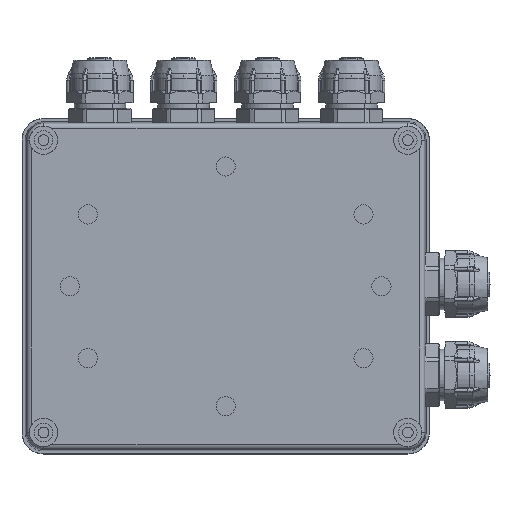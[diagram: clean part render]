
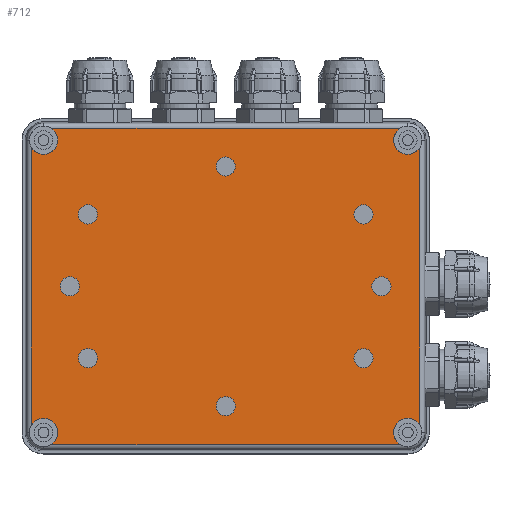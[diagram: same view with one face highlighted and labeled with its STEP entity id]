
A CAD part, front view. The second image highlights one B-rep face of the part: STEP entity #712.
In plain terms, the highlighted planar face has unit normal (0, -1, 0).
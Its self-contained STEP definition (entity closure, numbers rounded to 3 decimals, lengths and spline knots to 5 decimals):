
#712=ADVANCED_FACE('0:289',(#1749,#1750,#1751,#1752,#1753,#1754,#1755,#1756,#1757),#1758,.F.);
#1749=FACE_BOUND('',#3003,.T.);
#1750=FACE_BOUND('',#3004,.T.);
#1751=FACE_BOUND('',#3005,.T.);
#1752=FACE_BOUND('',#3006,.T.);
#1753=FACE_BOUND('',#3007,.T.);
#1754=FACE_BOUND('',#3008,.T.);
#1755=FACE_BOUND('',#3009,.T.);
#1756=FACE_BOUND('',#3010,.T.);
#1757=FACE_OUTER_BOUND('',#3011,.T.);
#1758=PLANE('',#3012);
#3003=EDGE_LOOP('',(#6775,#6776));
#3004=EDGE_LOOP('',(#6777,#6778));
#3005=EDGE_LOOP('',(#6779,#6780));
#3006=EDGE_LOOP('',(#6781,#6782));
#3007=EDGE_LOOP('',(#6783,#6784));
#3008=EDGE_LOOP('',(#6785,#6786));
#3009=EDGE_LOOP('',(#6787,#6788));
#3010=EDGE_LOOP('',(#6789,#6790));
#3011=EDGE_LOOP('',(#6791,#6792,#6793,#6794,#6795,#6796,#6797,#6798,#6799,#6800,#6801,#6802));
#3012=AXIS2_PLACEMENT_3D('',#6803,#6804,#6805);
#6775=ORIENTED_EDGE('',*,*,#9144,.T.);
#6776=ORIENTED_EDGE('',*,*,#8699,.T.);
#6777=ORIENTED_EDGE('',*,*,#9143,.T.);
#6778=ORIENTED_EDGE('',*,*,#8703,.T.);
#6779=ORIENTED_EDGE('',*,*,#9142,.T.);
#6780=ORIENTED_EDGE('',*,*,#8707,.T.);
#6781=ORIENTED_EDGE('',*,*,#9141,.T.);
#6782=ORIENTED_EDGE('',*,*,#8711,.T.);
#6783=ORIENTED_EDGE('',*,*,#9140,.T.);
#6784=ORIENTED_EDGE('',*,*,#8715,.T.);
#6785=ORIENTED_EDGE('',*,*,#9139,.T.);
#6786=ORIENTED_EDGE('',*,*,#8719,.T.);
#6787=ORIENTED_EDGE('',*,*,#9138,.T.);
#6788=ORIENTED_EDGE('',*,*,#8723,.T.);
#6789=ORIENTED_EDGE('',*,*,#9137,.T.);
#6790=ORIENTED_EDGE('',*,*,#8727,.T.);
#6791=ORIENTED_EDGE('',*,*,#8732,.F.);
#6792=ORIENTED_EDGE('',*,*,#9135,.T.);
#6793=ORIENTED_EDGE('',*,*,#9133,.F.);
#6794=ORIENTED_EDGE('',*,*,#8738,.F.);
#6795=ORIENTED_EDGE('',*,*,#9132,.T.);
#6796=ORIENTED_EDGE('',*,*,#8742,.F.);
#6797=ORIENTED_EDGE('',*,*,#9129,.F.);
#6798=ORIENTED_EDGE('',*,*,#9365,.T.);
#6799=ORIENTED_EDGE('',*,*,#8694,.F.);
#6800=ORIENTED_EDGE('',*,*,#9146,.F.);
#6801=ORIENTED_EDGE('',*,*,#9149,.T.);
#6802=ORIENTED_EDGE('',*,*,#9136,.F.);
#6803=CARTESIAN_POINT('',(-0.076,-0.075,-0.061));
#6804=DIRECTION('',(0.0,1.0,0.0));
#6805=DIRECTION('',(0.0,0.0,1.0));
#8694=EDGE_CURVE('0:1510',#10398,#10401,#10402,.T.);
#8699=EDGE_CURVE('0:1471',#10411,#10408,#10412,.T.);
#8703=EDGE_CURVE('0:751',#10419,#10416,#10420,.T.);
#8707=EDGE_CURVE('0:1474',#10427,#10424,#10428,.T.);
#8711=EDGE_CURVE('0:1477',#10435,#10432,#10436,.T.);
#8715=EDGE_CURVE('0:1480',#10443,#10440,#10444,.T.);
#8719=EDGE_CURVE('0:1483',#10451,#10448,#10452,.T.);
#8723=EDGE_CURVE('0:1486',#10459,#10456,#10460,.T.);
#8727=EDGE_CURVE('0:1489',#10467,#10464,#10468,.T.);
#8732=EDGE_CURVE('0:1492',#10475,#10477,#10478,.F.);
#8738=EDGE_CURVE('0:1498',#10487,#10489,#10490,.T.);
#8742=EDGE_CURVE('0:1504',#10494,#10497,#10498,.F.);
#9129=EDGE_CURVE('0:1504',#11151,#10494,#11153,.F.);
#9132=EDGE_CURVE('0:1501',#10487,#10497,#11157,.F.);
#9133=EDGE_CURVE('0:1498',#10489,#10919,#11158,.T.);
#9135=EDGE_CURVE('0:1495',#10475,#10919,#11160,.F.);
#9136=EDGE_CURVE('0:1492',#10477,#10937,#11161,.F.);
#9137=EDGE_CURVE('0:1489',#10464,#10467,#11162,.T.);
#9138=EDGE_CURVE('0:1486',#10456,#10459,#11163,.T.);
#9139=EDGE_CURVE('0:1483',#10448,#10451,#11164,.T.);
#9140=EDGE_CURVE('0:1480',#10440,#10443,#11165,.T.);
#9141=EDGE_CURVE('0:1477',#10432,#10435,#11166,.T.);
#9142=EDGE_CURVE('0:1474',#10424,#10427,#11167,.T.);
#9143=EDGE_CURVE('0:751',#10416,#10419,#11168,.T.);
#9144=EDGE_CURVE('0:1471',#10408,#10411,#11169,.T.);
#9146=EDGE_CURVE('0:1510',#11170,#10398,#11172,.T.);
#9149=EDGE_CURVE('0:1513',#11170,#10937,#11177,.F.);
#9365=EDGE_CURVE('0:1507',#11151,#10401,#11502,.F.);
#10398=VERTEX_POINT('',#13061);
#10401=VERTEX_POINT('',#13065);
#10402=CIRCLE('',#13066,0.0059);
#10408=VERTEX_POINT('',#13073);
#10411=VERTEX_POINT('',#13077);
#10412=CIRCLE('',#13078,0.004);
#10416=VERTEX_POINT('',#13083);
#10419=VERTEX_POINT('',#13087);
#10420=CIRCLE('',#13088,0.004);
#10424=VERTEX_POINT('',#13093);
#10427=VERTEX_POINT('',#13097);
#10428=CIRCLE('',#13098,0.004);
#10432=VERTEX_POINT('',#13103);
#10435=VERTEX_POINT('',#13107);
#10436=CIRCLE('',#13108,0.004);
#10440=VERTEX_POINT('',#13113);
#10443=VERTEX_POINT('',#13117);
#10444=CIRCLE('',#13118,0.004);
#10448=VERTEX_POINT('',#13123);
#10451=VERTEX_POINT('',#13127);
#10452=CIRCLE('',#13128,0.004);
#10456=VERTEX_POINT('',#13133);
#10459=VERTEX_POINT('',#13137);
#10460=CIRCLE('',#13138,0.004);
#10464=VERTEX_POINT('',#13143);
#10467=VERTEX_POINT('',#13147);
#10468=CIRCLE('',#13148,0.004);
#10475=VERTEX_POINT('',#13157);
#10477=VERTEX_POINT('',#13159);
#10478=CIRCLE('',#13160,0.0059);
#10487=VERTEX_POINT('',#13171);
#10489=VERTEX_POINT('',#13173);
#10490=CIRCLE('',#13174,0.0059);
#10494=VERTEX_POINT('',#13179);
#10497=VERTEX_POINT('',#13183);
#10498=CIRCLE('',#13184,0.0059);
#10919=VERTEX_POINT('',#13719);
#10937=VERTEX_POINT('',#13738);
#11151=VERTEX_POINT('',#14041);
#11153=CIRCLE('',#14043,0.0059);
#11157=LINE('',#14048,#14049);
#11158=CIRCLE('',#14050,0.0059);
#11160=LINE('',#14053,#14054);
#11161=CIRCLE('',#14055,0.0059);
#11162=CIRCLE('',#14056,0.004);
#11163=CIRCLE('',#14057,0.004);
#11164=CIRCLE('',#14058,0.004);
#11165=CIRCLE('',#14059,0.004);
#11166=CIRCLE('',#14060,0.004);
#11167=CIRCLE('',#14061,0.004);
#11168=CIRCLE('',#14062,0.004);
#11169=CIRCLE('',#14063,0.004);
#11170=VERTEX_POINT('',#14064);
#11172=CIRCLE('',#14066,0.0059);
#11177=LINE('',#14072,#14073);
#11502=LINE('',#14574,#14575);
#13061=CARTESIAN_POINT('',(0.076,-0.075,-0.0551));
#13065=CARTESIAN_POINT('',(0.07297,-0.075,-0.06606));
#13066=AXIS2_PLACEMENT_3D('',#17452,#17453,#17454);
#13073=CARTESIAN_POINT('',(0.0575,-0.075,-0.026));
#13077=CARTESIAN_POINT('',(0.0575,-0.075,-0.034));
#13078=AXIS2_PLACEMENT_3D('',#17463,#17464,#17465);
#13083=CARTESIAN_POINT('',(-0.0575,-0.075,-0.026));
#13087=CARTESIAN_POINT('',(-0.0575,-0.075,-0.034));
#13088=AXIS2_PLACEMENT_3D('',#17471,#17472,#17473);
#13093=CARTESIAN_POINT('',(-0.0575,-0.075,0.034));
#13097=CARTESIAN_POINT('',(-0.0575,-0.075,0.026));
#13098=AXIS2_PLACEMENT_3D('',#17479,#17480,#17481);
#13103=CARTESIAN_POINT('',(0.,-0.075,-0.046));
#13107=CARTESIAN_POINT('',(0.,-0.075,-0.054));
#13108=AXIS2_PLACEMENT_3D('',#17487,#17488,#17489);
#13113=CARTESIAN_POINT('',(0.0,-0.075,0.054));
#13117=CARTESIAN_POINT('',(0.,-0.075,0.046));
#13118=AXIS2_PLACEMENT_3D('',#17495,#17496,#17497);
#13123=CARTESIAN_POINT('',(0.0575,-0.075,0.034));
#13127=CARTESIAN_POINT('',(0.0575,-0.075,0.026));
#13128=AXIS2_PLACEMENT_3D('',#17503,#17504,#17505);
#13133=CARTESIAN_POINT('',(0.065,-0.075,0.004));
#13137=CARTESIAN_POINT('',(0.065,-0.075,-0.004));
#13138=AXIS2_PLACEMENT_3D('',#17511,#17512,#17513);
#13143=CARTESIAN_POINT('',(-0.065,-0.075,0.004));
#13147=CARTESIAN_POINT('',(-0.065,-0.075,-0.004));
#13148=AXIS2_PLACEMENT_3D('',#17519,#17520,#17521);
#13157=CARTESIAN_POINT('',(0.07297,-0.075,0.06606));
#13159=CARTESIAN_POINT('',(0.076,-0.075,0.0551));
#13160=AXIS2_PLACEMENT_3D('',#17530,#17531,#17532);
#13171=CARTESIAN_POINT('',(-0.08106,-0.075,0.05797));
#13173=CARTESIAN_POINT('',(-0.076,-0.075,0.0551));
#13174=AXIS2_PLACEMENT_3D('',#17544,#17545,#17546);
#13179=CARTESIAN_POINT('',(-0.076,-0.075,-0.0551));
#13183=CARTESIAN_POINT('',(-0.08106,-0.075,-0.05797));
#13184=AXIS2_PLACEMENT_3D('',#17552,#17553,#17554);
#13719=CARTESIAN_POINT('',(-0.07297,-0.075,0.06606));
#13738=CARTESIAN_POINT('',(0.08106,-0.075,0.05797));
#14041=CARTESIAN_POINT('',(-0.07297,-0.075,-0.06606));
#14043=AXIS2_PLACEMENT_3D('',#18305,#18306,#18307);
#14048=CARTESIAN_POINT('',(-0.08106,-0.075,-0.061));
#14049=VECTOR('',#18312,1.0);
#14050=AXIS2_PLACEMENT_3D('',#18313,#18314,#18315);
#14053=CARTESIAN_POINT('',(-0.076,-0.075,0.06606));
#14054=VECTOR('',#18317,1.0);
#14055=AXIS2_PLACEMENT_3D('',#18318,#18319,#18320);
#14056=AXIS2_PLACEMENT_3D('',#18321,#18322,#18323);
#14057=AXIS2_PLACEMENT_3D('',#18324,#18325,#18326);
#14058=AXIS2_PLACEMENT_3D('',#18327,#18328,#18329);
#14059=AXIS2_PLACEMENT_3D('',#18330,#18331,#18332);
#14060=AXIS2_PLACEMENT_3D('',#18333,#18334,#18335);
#14061=AXIS2_PLACEMENT_3D('',#18336,#18337,#18338);
#14062=AXIS2_PLACEMENT_3D('',#18339,#18340,#18341);
#14063=AXIS2_PLACEMENT_3D('',#18342,#18343,#18344);
#14064=CARTESIAN_POINT('',(0.08106,-0.075,-0.05797));
#14066=AXIS2_PLACEMENT_3D('',#18348,#18349,#18350);
#14072=CARTESIAN_POINT('',(0.08106,-0.075,0.061));
#14073=VECTOR('',#18355,1.0);
#14574=CARTESIAN_POINT('',(0.076,-0.075,-0.06606));
#14575=VECTOR('',#18649,1.0);
#17452=CARTESIAN_POINT('',(0.076,-0.075,-0.061));
#17453=DIRECTION('',(0.0,-1.0,0.0));
#17454=DIRECTION('',(1.0,0.0,0.0));
#17463=CARTESIAN_POINT('',(0.0575,-0.075,-0.03));
#17464=DIRECTION('',(0.0,1.0,0.0));
#17465=DIRECTION('',(0.0,0.0,1.0));
#17471=CARTESIAN_POINT('',(-0.0575,-0.075,-0.03));
#17472=DIRECTION('',(0.0,1.0,0.0));
#17473=DIRECTION('',(0.0,0.0,1.0));
#17479=CARTESIAN_POINT('',(-0.0575,-0.075,0.03));
#17480=DIRECTION('',(0.0,1.0,0.0));
#17481=DIRECTION('',(0.0,0.0,1.0));
#17487=CARTESIAN_POINT('',(0.,-0.075,-0.05));
#17488=DIRECTION('',(0.0,1.0,0.0));
#17489=DIRECTION('',(0.0,0.0,1.0));
#17495=CARTESIAN_POINT('',(0.0,-0.075,0.05));
#17496=DIRECTION('',(0.0,1.0,0.0));
#17497=DIRECTION('',(0.0,0.0,1.0));
#17503=CARTESIAN_POINT('',(0.0575,-0.075,0.03));
#17504=DIRECTION('',(0.0,1.0,0.0));
#17505=DIRECTION('',(0.0,0.0,1.0));
#17511=CARTESIAN_POINT('',(0.065,-0.075,0.0));
#17512=DIRECTION('',(0.0,1.0,0.0));
#17513=DIRECTION('',(0.0,0.0,1.0));
#17519=CARTESIAN_POINT('',(-0.065,-0.075,0.));
#17520=DIRECTION('',(0.0,1.0,0.0));
#17521=DIRECTION('',(0.0,0.0,1.0));
#17530=CARTESIAN_POINT('',(0.076,-0.075,0.061));
#17531=DIRECTION('',(0.0,1.0,0.0));
#17532=DIRECTION('',(-1.0,0.0,0.0));
#17544=CARTESIAN_POINT('',(-0.076,-0.075,0.061));
#17545=DIRECTION('',(0.0,-1.0,0.0));
#17546=DIRECTION('',(1.0,0.0,0.0));
#17552=CARTESIAN_POINT('',(-0.076,-0.075,-0.061));
#17553=DIRECTION('',(0.0,1.0,0.0));
#17554=DIRECTION('',(-1.0,0.0,0.0));
#18305=CARTESIAN_POINT('',(-0.076,-0.075,-0.061));
#18306=DIRECTION('',(0.0,1.0,0.0));
#18307=DIRECTION('',(-1.0,0.0,0.0));
#18312=DIRECTION('',(0.0,0.0,1.0));
#18313=CARTESIAN_POINT('',(-0.076,-0.075,0.061));
#18314=DIRECTION('',(0.0,-1.0,0.0));
#18315=DIRECTION('',(1.0,0.0,0.0));
#18317=DIRECTION('',(1.0,0.0,0.0));
#18318=CARTESIAN_POINT('',(0.076,-0.075,0.061));
#18319=DIRECTION('',(0.0,1.0,0.0));
#18320=DIRECTION('',(-1.0,0.0,0.0));
#18321=CARTESIAN_POINT('',(-0.065,-0.075,0.));
#18322=DIRECTION('',(0.0,1.0,0.0));
#18323=DIRECTION('',(0.0,0.0,1.0));
#18324=CARTESIAN_POINT('',(0.065,-0.075,0.0));
#18325=DIRECTION('',(0.0,1.0,0.0));
#18326=DIRECTION('',(0.0,0.0,1.0));
#18327=CARTESIAN_POINT('',(0.0575,-0.075,0.03));
#18328=DIRECTION('',(0.0,1.0,0.0));
#18329=DIRECTION('',(0.0,0.0,1.0));
#18330=CARTESIAN_POINT('',(0.0,-0.075,0.05));
#18331=DIRECTION('',(0.0,1.0,0.0));
#18332=DIRECTION('',(0.0,0.0,1.0));
#18333=CARTESIAN_POINT('',(0.,-0.075,-0.05));
#18334=DIRECTION('',(0.0,1.0,0.0));
#18335=DIRECTION('',(0.0,0.0,1.0));
#18336=CARTESIAN_POINT('',(-0.0575,-0.075,0.03));
#18337=DIRECTION('',(0.0,1.0,0.0));
#18338=DIRECTION('',(0.0,0.0,1.0));
#18339=CARTESIAN_POINT('',(-0.0575,-0.075,-0.03));
#18340=DIRECTION('',(0.0,1.0,0.0));
#18341=DIRECTION('',(0.0,0.0,1.0));
#18342=CARTESIAN_POINT('',(0.0575,-0.075,-0.03));
#18343=DIRECTION('',(0.0,1.0,0.0));
#18344=DIRECTION('',(0.0,0.0,1.0));
#18348=CARTESIAN_POINT('',(0.076,-0.075,-0.061));
#18349=DIRECTION('',(0.0,-1.0,0.0));
#18350=DIRECTION('',(1.0,0.0,0.0));
#18355=DIRECTION('',(0.,0.0,-1.0));
#18649=DIRECTION('',(-1.0,0.0,0.));
